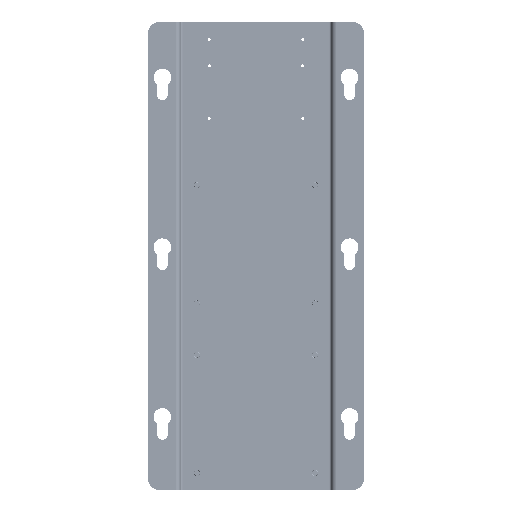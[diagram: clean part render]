
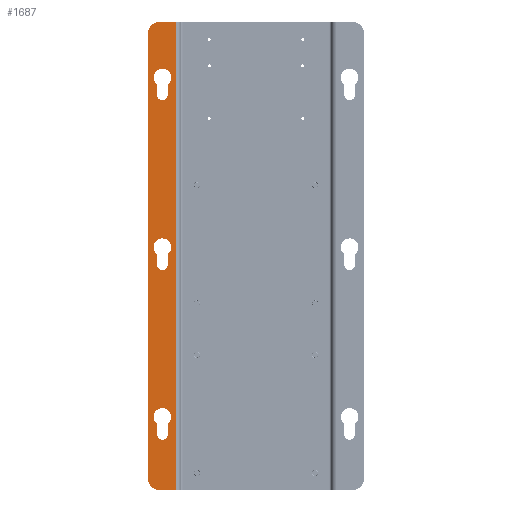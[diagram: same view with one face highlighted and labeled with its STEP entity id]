
A CAD part, top view. The second image highlights one B-rep face of the part: STEP entity #1687.
In plain terms, the highlighted planar face has unit normal (0, 0, 1).
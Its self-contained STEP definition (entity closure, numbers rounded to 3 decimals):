
#37=DIRECTION('',(1.,0.,0.));
#38=VECTOR('',#37,13.8);
#39=CARTESIAN_POINT('',(-82.5,0.,0.));
#40=LINE('',#39,#38);
#41=DIRECTION('',(0.,-1.,0.));
#42=VECTOR('',#41,400.);
#43=CARTESIAN_POINT('',(-68.7,400.,0.));
#44=LINE('',#43,#42);
#59=DIRECTION('',(0.,1.,0.));
#60=VECTOR('',#59,9.);
#61=CARTESIAN_POINT('',(-84.5,47.5,0.));
#62=LINE('',#61,#60);
#63=CARTESIAN_POINT('',(-80.,47.5,0.));
#64=DIRECTION('',(0.,0.,-1.));
#65=DIRECTION('',(1.,0.,0.));
#66=AXIS2_PLACEMENT_3D('',#63,#64,#65);
#68=DIRECTION('',(0.,-1.,0.));
#69=VECTOR('',#68,9.);
#70=CARTESIAN_POINT('',(-75.5,56.5,0.));
#71=LINE('',#70,#69);
#72=CARTESIAN_POINT('',(-80.,62.5,0.));
#73=DIRECTION('',(0.,0.,-1.));
#74=DIRECTION('',(-0.6,-0.8,0.));
#75=AXIS2_PLACEMENT_3D('',#72,#73,#74);
#77=DIRECTION('',(0.,1.,0.));
#78=VECTOR('',#77,9.);
#79=CARTESIAN_POINT('',(-84.5,192.5,0.));
#80=LINE('',#79,#78);
#81=CARTESIAN_POINT('',(-80.,192.5,0.));
#82=DIRECTION('',(0.,0.,-1.));
#83=DIRECTION('',(1.,0.,0.));
#84=AXIS2_PLACEMENT_3D('',#81,#82,#83);
#86=DIRECTION('',(0.,-1.,0.));
#87=VECTOR('',#86,9.);
#88=CARTESIAN_POINT('',(-75.5,201.5,0.));
#89=LINE('',#88,#87);
#90=CARTESIAN_POINT('',(-80.,207.5,0.));
#91=DIRECTION('',(0.,0.,-1.));
#92=DIRECTION('',(-0.6,-0.8,0.));
#93=AXIS2_PLACEMENT_3D('',#90,#91,#92);
#95=DIRECTION('',(0.,1.,0.));
#96=VECTOR('',#95,9.);
#97=CARTESIAN_POINT('',(-84.5,337.5,0.));
#98=LINE('',#97,#96);
#99=CARTESIAN_POINT('',(-80.,337.5,0.));
#100=DIRECTION('',(0.,0.,-1.));
#101=DIRECTION('',(1.,0.,0.));
#102=AXIS2_PLACEMENT_3D('',#99,#100,#101);
#104=DIRECTION('',(0.,-1.,0.));
#105=VECTOR('',#104,9.);
#106=CARTESIAN_POINT('',(-75.5,346.5,0.));
#107=LINE('',#106,#105);
#108=CARTESIAN_POINT('',(-80.,352.5,0.));
#109=DIRECTION('',(0.,0.,-1.));
#110=DIRECTION('',(-0.6,-0.8,0.));
#111=AXIS2_PLACEMENT_3D('',#108,#109,#110);
#113=DIRECTION('',(0.,1.,0.));
#114=VECTOR('',#113,380.);
#115=CARTESIAN_POINT('',(-92.5,10.,0.));
#116=LINE('',#115,#114);
#827=DIRECTION('',(1.,0.,0.));
#828=VECTOR('',#827,13.8);
#829=CARTESIAN_POINT('',(-82.5,400.,0.));
#830=LINE('',#829,#828);
#880=CARTESIAN_POINT('',(-82.5,390.,0.));
#881=DIRECTION('',(0.,0.,1.));
#882=DIRECTION('',(0.,1.,0.));
#883=AXIS2_PLACEMENT_3D('',#880,#881,#882);
#893=CARTESIAN_POINT('',(-82.5,10.,0.));
#894=DIRECTION('',(0.,0.,1.));
#895=DIRECTION('',(-1.,0.,0.));
#896=AXIS2_PLACEMENT_3D('',#893,#894,#895);
#1377=CARTESIAN_POINT('',(-92.5,10.,0.));
#1379=VERTEX_POINT('',#1377);
#1381=CARTESIAN_POINT('',(-82.5,0.,0.));
#1382=VERTEX_POINT('',#1381);
#1394=CARTESIAN_POINT('',(-92.5,390.,0.));
#1396=VERTEX_POINT('',#1394);
#1399=CARTESIAN_POINT('',(-82.5,400.,0.));
#1400=VERTEX_POINT('',#1399);
#1409=CARTESIAN_POINT('',(-68.7,400.,0.));
#1410=CARTESIAN_POINT('',(-68.7,0.,0.));
#1411=VERTEX_POINT('',#1409);
#1412=VERTEX_POINT('',#1410);
#1433=CARTESIAN_POINT('',(-84.5,47.5,0.));
#1434=CARTESIAN_POINT('',(-84.5,56.5,0.));
#1435=VERTEX_POINT('',#1433);
#1436=VERTEX_POINT('',#1434);
#1437=CARTESIAN_POINT('',(-75.5,56.5,0.));
#1438=VERTEX_POINT('',#1437);
#1439=CARTESIAN_POINT('',(-75.5,47.5,0.));
#1440=VERTEX_POINT('',#1439);
#1449=CARTESIAN_POINT('',(-84.5,192.5,0.));
#1450=CARTESIAN_POINT('',(-84.5,201.5,0.));
#1451=VERTEX_POINT('',#1449);
#1452=VERTEX_POINT('',#1450);
#1453=CARTESIAN_POINT('',(-75.5,201.5,0.));
#1454=VERTEX_POINT('',#1453);
#1455=CARTESIAN_POINT('',(-75.5,192.5,0.));
#1456=VERTEX_POINT('',#1455);
#1465=CARTESIAN_POINT('',(-84.5,337.5,0.));
#1466=CARTESIAN_POINT('',(-84.5,346.5,0.));
#1467=VERTEX_POINT('',#1465);
#1468=VERTEX_POINT('',#1466);
#1469=CARTESIAN_POINT('',(-75.5,346.5,0.));
#1470=VERTEX_POINT('',#1469);
#1471=CARTESIAN_POINT('',(-75.5,337.5,0.));
#1472=VERTEX_POINT('',#1471);
#1640=CARTESIAN_POINT('',(-92.5,0.,0.));
#1641=DIRECTION('',(0.,0.,1.));
#1642=DIRECTION('',(1.,0.,0.));
#1643=AXIS2_PLACEMENT_3D('',#1640,#1641,#1642);
#1644=PLANE('',#1643);
#1645=ORIENTED_EDGE('',*,*,#1630,.T.);
#1646=ORIENTED_EDGE('',*,*,#1620,.F.);
#1648=ORIENTED_EDGE('',*,*,#1647,.F.);
#1650=ORIENTED_EDGE('',*,*,#1649,.T.);
#1652=ORIENTED_EDGE('',*,*,#1651,.F.);
#1654=ORIENTED_EDGE('',*,*,#1653,.T.);
#1655=EDGE_LOOP('',(#1645,#1646,#1648,#1650,#1652,#1654));
#1656=FACE_OUTER_BOUND('',#1655,.F.);
#1658=ORIENTED_EDGE('',*,*,#1657,.F.);
#1660=ORIENTED_EDGE('',*,*,#1659,.F.);
#1662=ORIENTED_EDGE('',*,*,#1661,.F.);
#1664=ORIENTED_EDGE('',*,*,#1663,.F.);
#1665=EDGE_LOOP('',(#1658,#1660,#1662,#1664));
#1666=FACE_BOUND('',#1665,.F.);
#1668=ORIENTED_EDGE('',*,*,#1667,.F.);
#1670=ORIENTED_EDGE('',*,*,#1669,.F.);
#1672=ORIENTED_EDGE('',*,*,#1671,.F.);
#1674=ORIENTED_EDGE('',*,*,#1673,.F.);
#1675=EDGE_LOOP('',(#1668,#1670,#1672,#1674));
#1676=FACE_BOUND('',#1675,.F.);
#1678=ORIENTED_EDGE('',*,*,#1677,.F.);
#1680=ORIENTED_EDGE('',*,*,#1679,.F.);
#1682=ORIENTED_EDGE('',*,*,#1681,.F.);
#1684=ORIENTED_EDGE('',*,*,#1683,.F.);
#1685=EDGE_LOOP('',(#1678,#1680,#1682,#1684));
#1686=FACE_BOUND('',#1685,.F.);
#1687=ADVANCED_FACE('',(#1656,#1666,#1676,#1686),#1644,.T.);
#67=CIRCLE('',#66,4.5);
#76=CIRCLE('',#75,7.5);
#85=CIRCLE('',#84,4.5);
#94=CIRCLE('',#93,7.5);
#103=CIRCLE('',#102,4.5);
#112=CIRCLE('',#111,7.5);
#884=CIRCLE('',#883,10.);
#897=CIRCLE('',#896,10.);
#1620=EDGE_CURVE('',#1382,#1412,#40,.T.);
#1630=EDGE_CURVE('',#1411,#1412,#44,.T.);
#1647=EDGE_CURVE('',#1379,#1382,#897,.T.);
#1649=EDGE_CURVE('',#1379,#1396,#116,.T.);
#1651=EDGE_CURVE('',#1400,#1396,#884,.T.);
#1653=EDGE_CURVE('',#1400,#1411,#830,.T.);
#1657=EDGE_CURVE('',#1435,#1436,#62,.T.);
#1659=EDGE_CURVE('',#1440,#1435,#67,.T.);
#1661=EDGE_CURVE('',#1438,#1440,#71,.T.);
#1663=EDGE_CURVE('',#1436,#1438,#76,.T.);
#1667=EDGE_CURVE('',#1451,#1452,#80,.T.);
#1669=EDGE_CURVE('',#1456,#1451,#85,.T.);
#1671=EDGE_CURVE('',#1454,#1456,#89,.T.);
#1673=EDGE_CURVE('',#1452,#1454,#94,.T.);
#1677=EDGE_CURVE('',#1467,#1468,#98,.T.);
#1679=EDGE_CURVE('',#1472,#1467,#103,.T.);
#1681=EDGE_CURVE('',#1470,#1472,#107,.T.);
#1683=EDGE_CURVE('',#1468,#1470,#112,.T.);
